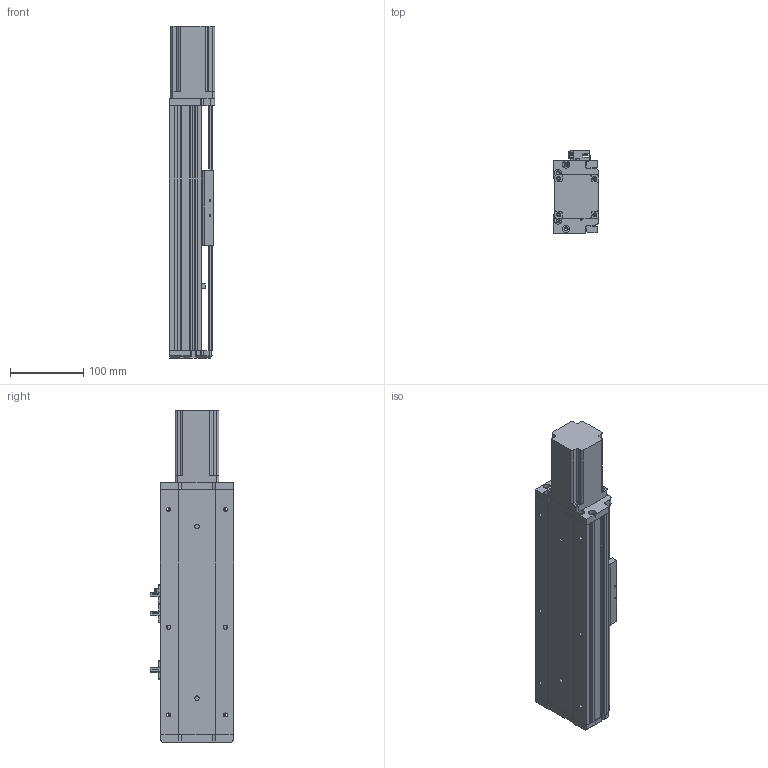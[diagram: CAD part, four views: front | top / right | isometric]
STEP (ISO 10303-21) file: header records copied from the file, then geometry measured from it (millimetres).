
FILE_DESCRIPTION (( 'STEP AP214' ), '1' );
FILE_NAME ('KSD100S-S100-MN-CM.STEP', '2019-08-30T06:47:33', ( '微软用户' ), ( '微软中国' ), 'SwSTEP 2.0', 'SolidWorks 2014', '' );
FILE_SCHEMA (( 'AUTOMOTIVE_DESIGN' ));
Length unit declared in the file: millimetre
Products named in the file (9): 侂狟400侜督萇儂; 覜茼え100遵圉猾敕; U倰嫖萇EEㄜSX672; 100宽防尘板丝杆100行程不带电机座; 100宽马达安装板不带电机座; 100宽滚珠螺姆安装板半封闭; 100遵傷啣; 100宽底板半封闭100行程丝杆不带电机座; KSD100S-S100-MN-CM
Assembly tree (10 placements, depth 2):
  KSD100S-S100-MN-CM
    100宽底板半封闭100行程丝杆不带电机座
    100遵傷啣
    100宽滚珠螺姆安装板半封闭
    100宽马达安装板不带电机座
    100宽防尘板丝杆100行程不带电机座
    U倰嫖萇EEㄜSX672  x3
    覜茼え100遵圉猾敕
    侂狟400侜督萇儂
Bounding box: 62 x 113.7 x 454 mm (x, y, z)
Volume: 1142086.7 mm3; surface area: 324385.8 mm2
Topology: 11 solids, 11 shells, 948 faces, 2654 edges, 1697 vertices
Faces by surface type: plane 440, cylinder 421, cone 87
Entity records: 30968 total; most frequent: CARTESIAN_POINT 5474, DIRECTION 4189, ORIENTED_EDGE 4040, EDGE_CURVE 2020, AXIS2_PLACEMENT_3D 1488, VERTEX_POINT 1321, LINE 1213, VECTOR 1213
